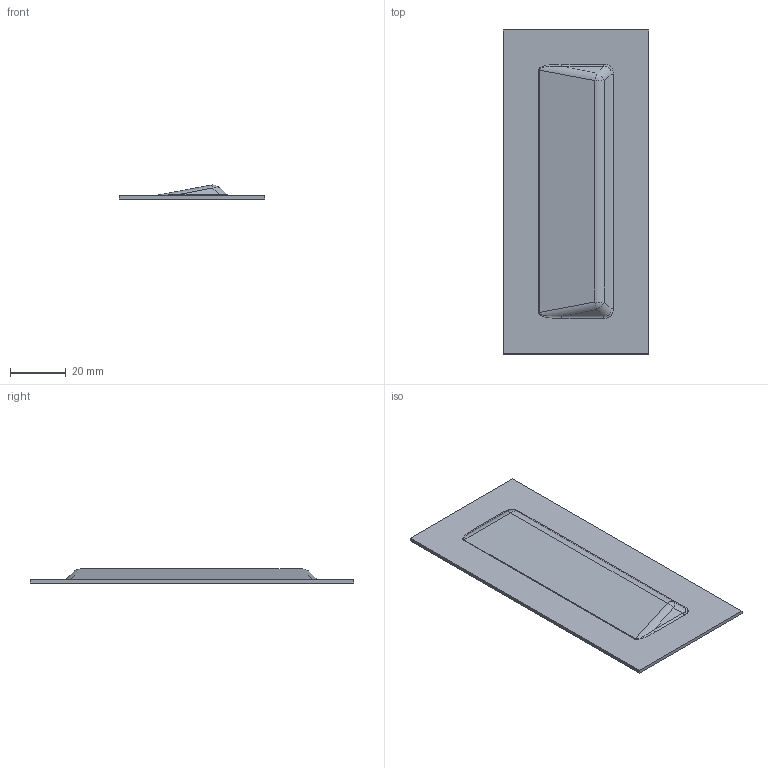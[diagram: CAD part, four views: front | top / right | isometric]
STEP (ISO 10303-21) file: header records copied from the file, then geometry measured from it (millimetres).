
FILE_DESCRIPTION((''),'1');
FILE_NAME('C:/Users/ericfrey/Desktop/INTEL HANDLE.stp', '2015-03-13T17:35:30',(''), (''), 'KCM Version 1.1.1182.0', 'Kubotek KeyCreator', '');
FILE_SCHEMA(('AUTOMOTIVE_DESIGN'));
Length unit declared in the file: inch
Bounding box: 52.05 x 115.89 x 5.01 mm (x, y, z)
Volume: 7538.1 mm3; surface area: 12825.1 mm2
Topology: 1 solids, 1 shells, 44 faces, 92 edges, 52 vertices
Faces by surface type: cylinder 18, plane 14, bspline 8, sphere 4
Entity records: 1665 total; most frequent: CARTESIAN_POINT 715, DIRECTION 198, ORIENTED_EDGE 184, EDGE_CURVE 92, AXIS2_PLACEMENT_3D 75, VERTEX_POINT 52, VECTOR 48, LINE 48
